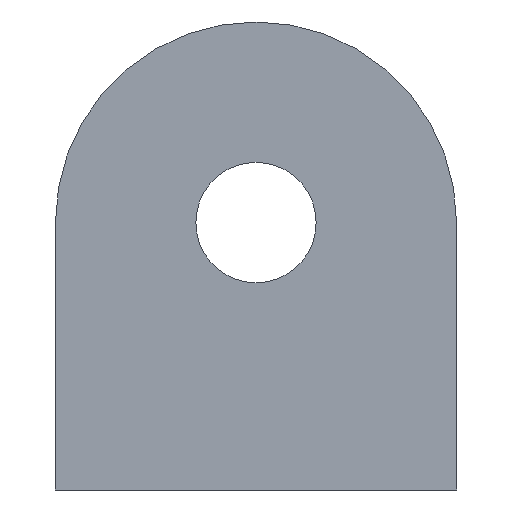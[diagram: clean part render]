
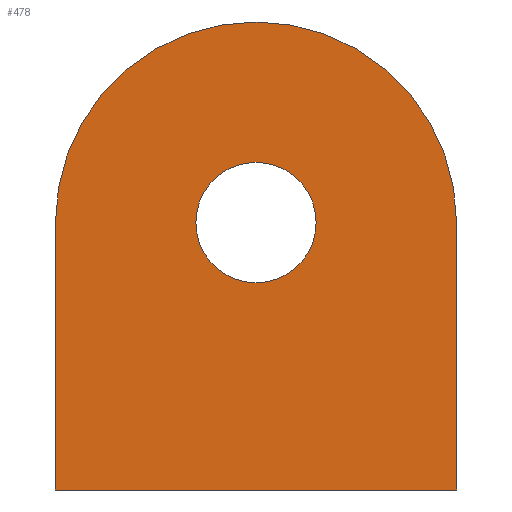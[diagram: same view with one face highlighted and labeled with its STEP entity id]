
A CAD part, front view. The second image highlights one B-rep face of the part: STEP entity #478.
In plain terms, the highlighted planar face has unit normal (0, -1, 0).
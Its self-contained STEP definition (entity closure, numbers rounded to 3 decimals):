
#7 = CIRCLE ( 'NONE', #494, 15. ) ;
#20 = ORIENTED_EDGE ( 'NONE', *, *, #787, .F. ) ;
#23 = ORIENTED_EDGE ( 'NONE', *, *, #821, .F. ) ;
#25 = VERTEX_POINT ( 'NONE', #827 ) ;
#32 = CARTESIAN_POINT ( 'NONE',  ( -3.38, -29.394, 20. ) ) ;
#70 = CIRCLE ( 'NONE', #178, 15. ) ;
#82 = CIRCLE ( 'NONE', #118, 4.5 ) ;
#95 = CARTESIAN_POINT ( 'NONE',  ( -3.38, -29.394, 24.5 ) ) ;
#101 = EDGE_CURVE ( 'NONE', #369, #25, #388, .T. ) ;
#116 = DIRECTION ( 'NONE',  ( 0., 0., -1. ) ) ;
#118 = AXIS2_PLACEMENT_3D ( 'NONE', #32, #535, #116 ) ;
#125 = CARTESIAN_POINT ( 'NONE',  ( -3.38, -29.394, 20. ) ) ;
#159 = EDGE_LOOP ( 'NONE', ( #20, #173, #246, #823, #593 ) ) ;
#166 = FACE_BOUND ( 'NONE', #453, .T. ) ;
#173 = ORIENTED_EDGE ( 'NONE', *, *, #874, .T. ) ;
#175 = CARTESIAN_POINT ( 'NONE',  ( 11.62, -29.394, 8. ) ) ;
#178 = AXIS2_PLACEMENT_3D ( 'NONE', #837, #342, #846 ) ;
#190 = CARTESIAN_POINT ( 'NONE',  ( 11.62, -29.394, 20. ) ) ;
#196 = DIRECTION ( 'NONE',  ( 0., 0., 1. ) ) ;
#205 = VECTOR ( 'NONE', #499, 1000. ) ;
#246 = ORIENTED_EDGE ( 'NONE', *, *, #614, .T. ) ;
#247 = EDGE_CURVE ( 'NONE', #802, #811, #650, .T. ) ;
#280 = CARTESIAN_POINT ( 'NONE',  ( -18.38, -29.394, 8. ) ) ;
#342 = DIRECTION ( 'NONE',  ( 0., -1., 0. ) ) ;
#369 = VERTEX_POINT ( 'NONE', #484 ) ;
#388 = LINE ( 'NONE', #280, #205 ) ;
#416 = ORIENTED_EDGE ( 'NONE', *, *, #247, .F. ) ;
#425 = CARTESIAN_POINT ( 'NONE',  ( -3.38, -29.394, 20. ) ) ;
#445 = CARTESIAN_POINT ( 'NONE',  ( -18.38, -29.394, 8. ) ) ;
#453 = EDGE_LOOP ( 'NONE', ( #416, #23 ) ) ;
#473 = VECTOR ( 'NONE', #662, 1000. ) ;
#478 = ADVANCED_FACE ( 'NONE', ( #166, #893 ), #502, .F. ) ;
#484 = CARTESIAN_POINT ( 'NONE',  ( -18.38, -29.394, 20. ) ) ;
#494 = AXIS2_PLACEMENT_3D ( 'NONE', #125, #617, #196 ) ;
#498 = LINE ( 'NONE', #595, #872 ) ;
#499 = DIRECTION ( 'NONE',  ( 0., 0., -1. ) ) ;
#502 = PLANE ( 'NONE',  #527 ) ;
#522 = CARTESIAN_POINT ( 'NONE',  ( -3.38, -29.394, 15.5 ) ) ;
#527 = AXIS2_PLACEMENT_3D ( 'NONE', #445, #588, #582 ) ;
#533 = CARTESIAN_POINT ( 'NONE',  ( -3.38, -29.394, 35. ) ) ;
#535 = DIRECTION ( 'NONE',  ( 0., -1., 0. ) ) ;
#582 = DIRECTION ( 'NONE',  ( 0., 0., 1. ) ) ;
#588 = DIRECTION ( 'NONE',  ( 0., 1., 0. ) ) ;
#593 = ORIENTED_EDGE ( 'NONE', *, *, #723, .T. ) ;
#595 = CARTESIAN_POINT ( 'NONE',  ( -18.38, -29.394, 0. ) ) ;
#614 = EDGE_CURVE ( 'NONE', #813, #369, #70, .T. ) ;
#617 = DIRECTION ( 'NONE',  ( 0., -1., 0. ) ) ;
#619 = LINE ( 'NONE', #175, #473 ) ;
#637 = DIRECTION ( 'NONE',  ( 0., 0., -1. ) ) ;
#650 = CIRCLE ( 'NONE', #683, 4.5 ) ;
#662 = DIRECTION ( 'NONE',  ( 0., 0., -1. ) ) ;
#683 = AXIS2_PLACEMENT_3D ( 'NONE', #425, #726, #637 ) ;
#686 = CARTESIAN_POINT ( 'NONE',  ( 11.62, -29.394, 0. ) ) ;
#723 = EDGE_CURVE ( 'NONE', #25, #940, #498, .T. ) ;
#726 = DIRECTION ( 'NONE',  ( 0., -1., 0. ) ) ;
#787 = EDGE_CURVE ( 'NONE', #877, #940, #619, .T. ) ;
#802 = VERTEX_POINT ( 'NONE', #522 ) ;
#811 = VERTEX_POINT ( 'NONE', #95 ) ;
#813 = VERTEX_POINT ( 'NONE', #533 ) ;
#821 = EDGE_CURVE ( 'NONE', #811, #802, #82, .T. ) ;
#823 = ORIENTED_EDGE ( 'NONE', *, *, #101, .T. ) ;
#827 = CARTESIAN_POINT ( 'NONE',  ( -18.38, -29.394, 0. ) ) ;
#837 = CARTESIAN_POINT ( 'NONE',  ( -3.38, -29.394, 20. ) ) ;
#846 = DIRECTION ( 'NONE',  ( 0., 0., 1. ) ) ;
#872 = VECTOR ( 'NONE', #897, 1000. ) ;
#874 = EDGE_CURVE ( 'NONE', #877, #813, #7, .T. ) ;
#877 = VERTEX_POINT ( 'NONE', #190 ) ;
#893 = FACE_OUTER_BOUND ( 'NONE', #159, .T. ) ;
#897 = DIRECTION ( 'NONE',  ( 1., 0., 0. ) ) ;
#940 = VERTEX_POINT ( 'NONE', #686 ) ;
